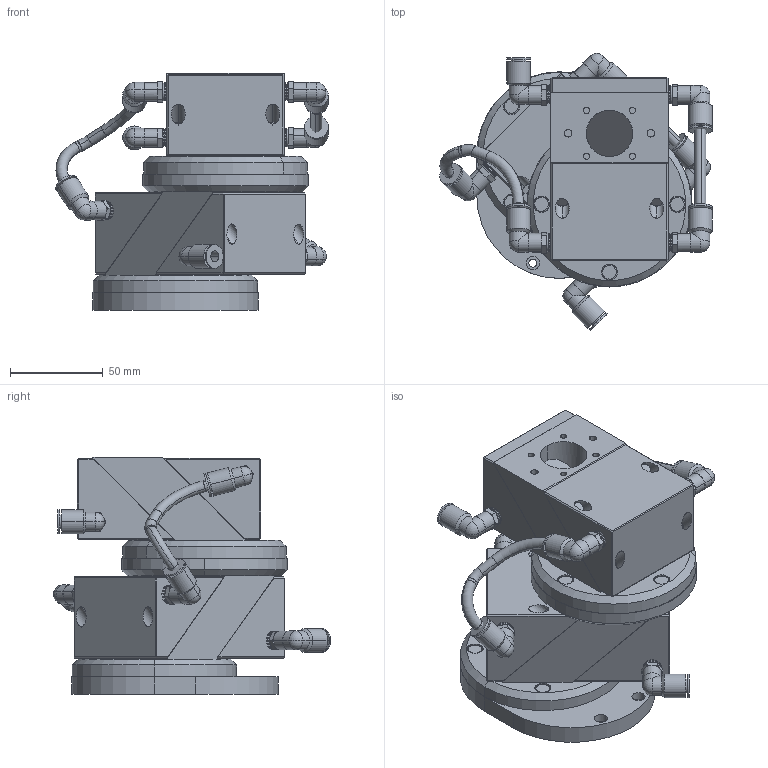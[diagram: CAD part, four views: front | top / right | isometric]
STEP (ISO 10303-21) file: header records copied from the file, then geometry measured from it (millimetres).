
FILE_DESCRIPTION (( 'STEP AP214' ), '1' );
FILE_NAME ('BQE-25-10.6-SYN45.STEP', '2016-12-02T19:06:44', ( '' ), ( '' ), 'SwSTEP 2.0', 'SolidWorks 2016', '' );
FILE_SCHEMA (( 'AUTOMOTIVE_DESIGN' ));
Length unit declared in the file: inch
Products named in the file (1): BQE-25-10.6-SYN45
Bounding box: 146.59 x 149.14 x 127.64 mm (x, y, z)
Volume: 803228.3 mm3; surface area: 188996.6 mm2
Topology: 48 solids, 48 shells, 1747 faces, 3758 edges, 2262 vertices
Faces by surface type: cylinder 564, plane 501, cone 446, torus 164, bspline 56, sphere 16
Entity records: 52099 total; most frequent: CARTESIAN_POINT 13008, DIRECTION 8672, ORIENTED_EDGE 7484, EDGE_CURVE 3742, AXIS2_PLACEMENT_3D 3526, VERTEX_POINT 2262, EDGE_LOOP 1932, CIRCLE 1834
